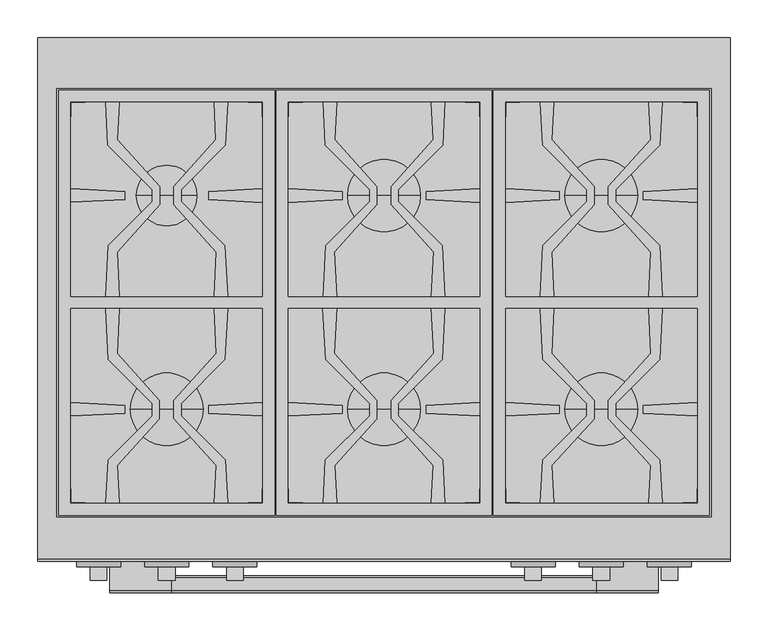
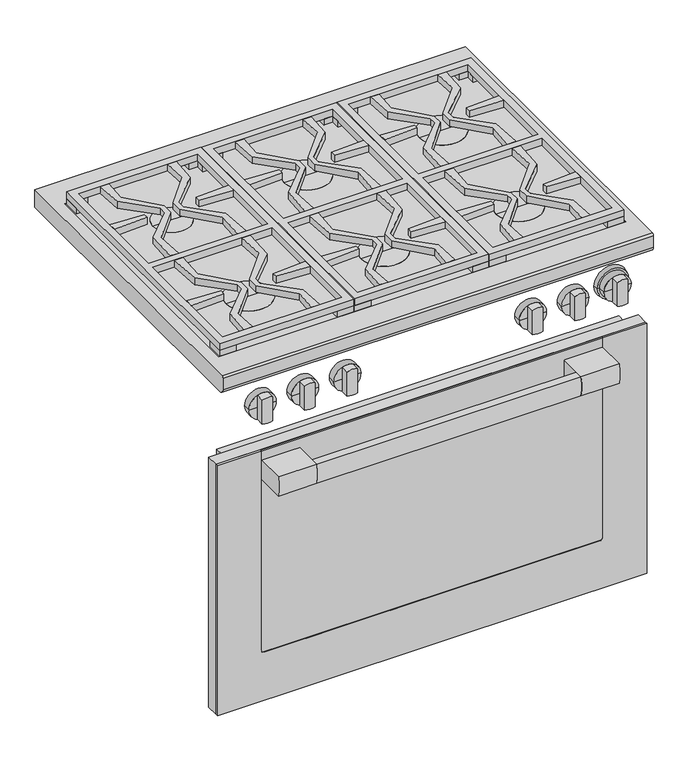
"""IFC4 building model written with IfcOpenShell, lengths in millimetres: proxy geometry, 11791590_USA_HR1934-3LP_EDST-CLS : 25193482_USA_11791590_HR1934-3LP_EDST-CLS."""

from ifc_helpers import new_model, si_unit, point, frame, frame_2d, origin, place, context, project, spatial, polyline, circle_curve, trimmed, segment, composite_curve, outline, extrude, source, transform, mapped, element, save
from ifc_brep_helpers import plane_surface, cylinder_surface, revolved_surface, advanced_brep


def specialty_equipment_725725e1(model_context):
    return source(origin(), model_context, "Body", "SolidModel", [
        extrude(outline(polyline([(-427.0, -617.0), (427.0, -617.0), (427.0, -638.0), (-427.0, -638.0), (-427.0, -617.0)])), frame((0.0, 0.0, 133.0), z_axis=(0.0, 0.0, 1.0), x_axis=(1.0, 0.0, 0.0)), (0.0, 0.0, 1.0), 550.0),
        advanced_brep(
        [(363.0, -664.7, 688.0), (456.0, -664.7, 688.0), (456.0, -664.7, 127.0), (-456.0, -664.7, 127.0), (-456.0, -664.7, 688.0), (-363.0, -664.7, 688.0), (-363.0, -664.7, 687.0), (-455.0, -664.7, 687.0), (-455.0, -664.7, 128.0), (455.0, -664.7, 128.0), (455.0, -664.7, 687.0), (363.0, -664.7, 687.0), (-363.0, -670.0, 688.0), (-456.0, -670.0, 688.0), (-456.0, -670.0, 127.0), (456.0, -670.0, 127.0), (456.0, -670.0, 688.0), (363.0, -670.0, 688.0), (363.0, -670.0, 241.0), (357.0, -670.0, 235.0), (-357.0, -670.0, 235.0), (-363.0, -670.0, 241.0), (-363.0, -668.7, 241.0), (-363.0, -668.7, 687.0), (357.0, -668.7, 235.0), (-357.0, -668.7, 235.0), (363.0, -668.7, 687.0), (363.0, -668.7, 241.0), (455.0, -668.7, 687.0), (455.0, -668.7, 128.0), (-455.0, -668.7, 128.0), (-455.0, -668.7, 687.0)],
        [
            (0, 1),
            (1, 2),
            (2, 3),
            (3, 4),
            (4, 5),
            (5, 6),
            (6, 7),
            (7, 8),
            (8, 9),
            (9, 10),
            (10, 11),
            (11, 0),
            (12, 13),
            (13, 14),
            (14, 15),
            (15, 16),
            (16, 17),
            (17, 18),
            (18, 19, circle_curve(frame((357.0, -670.0, 241.0), z_axis=(0.0, 1.0, 0.0), x_axis=(-1.0, 0.0, 0.0)), 6.0)),
            (19, 20),
            (20, 21, circle_curve(frame((-357.0, -670.0, 241.0), z_axis=(0.0, 1.0, 0.0), x_axis=(-1.0, 0.0, 0.0)), 6.0)),
            (21, 12),
            (21, 22),
            (22, 23),
            (23, 6),
            (5, 12),
            (19, 24),
            (24, 25),
            (25, 20),
            (17, 0),
            (11, 26),
            (26, 27),
            (27, 18),
            (16, 1),
            (15, 2),
            (14, 3),
            (13, 4),
            (25, 22, circle_curve(frame((-357.0, -668.7, 241.0), z_axis=(0.0, 1.0, 0.0), x_axis=(-1.0, 0.0, 0.0)), 6.0)),
            (27, 24, circle_curve(frame((357.0, -668.7, 241.0), z_axis=(0.0, 1.0, 0.0), x_axis=(-1.0, 0.0, 0.0)), 6.0)),
            (28, 29),
            (29, 30),
            (30, 31),
            (31, 23),
            (26, 28),
            (28, 10),
            (9, 29),
            (8, 30),
            (7, 31),
        ],
        [
            plane_surface(frame((-363.0, -664.7, 241.0), z_axis=(0.0, 1.0, 0.0), x_axis=(0.0, 0.0, -1.0))),
            plane_surface(frame((-363.0, -670.0, 241.0), z_axis=(0.0, -1.0, 0.0), x_axis=(0.0, 0.0, 1.0))),
            plane_surface(frame((-363.0, -664.7, 688.0), z_axis=(1.0, 0.0, 0.0), x_axis=(0.0, -1.0, 0.0))),
            plane_surface(frame((-357.0, -664.7, 235.0), z_axis=(0.0, 0.0, 1.0), x_axis=(0.0, -1.0, 0.0))),
            plane_surface(frame((363.0, -664.7, 241.0), z_axis=(-1.0, 0.0, 0.0), x_axis=(0.0, -1.0, 0.0))),
            plane_surface(frame((363.0, -664.7, 688.0), z_axis=(0.0, 0.0, 1.0), x_axis=(0.0, -1.0, 0.0))),
            plane_surface(frame((456.0, -664.7, 688.0), z_axis=(1.0, 0.0, 0.0), x_axis=(0.0, -1.0, 0.0))),
            plane_surface(frame((456.0, -664.7, 127.0), z_axis=(0.0, 0.0, -1.0), x_axis=(0.0, -1.0, 0.0))),
            plane_surface(frame((-456.0, -664.7, 127.0), z_axis=(-1.0, 0.0, 0.0), x_axis=(0.0, -1.0, 0.0))),
            plane_surface(frame((-456.0, -664.7, 688.0), z_axis=(0.0, 0.0, 1.0), x_axis=(0.0, -1.0, 0.0))),
            revolved_surface(polyline([(-363.0, -670.0, 241.0), (-363.0, -668.7, 241.0)]), (-357.0, -670.0, 241.0), (0.0, -1.0, 0.0)),
            revolved_surface(polyline([(351.0, -670.0, 241.0), (351.0, -668.7, 241.0)]), (357.0, -670.0, 241.0), (0.0, -1.0, 0.0)),
            plane_surface(frame((455.0, -668.7, 687.0), z_axis=(0.0, 1.0, 0.0), x_axis=(0.0, 0.0, 1.0))),
            plane_surface(frame((455.0, -664.7, 687.0), z_axis=(-1.0, 0.0, 0.0), x_axis=(0.0, -1.0, 0.0))),
            plane_surface(frame((455.0, -664.7, 128.0), z_axis=(0.0, 0.0, 1.0), x_axis=(0.0, -1.0, 0.0))),
            plane_surface(frame((-455.0, -664.7, 128.0), z_axis=(1.0, 0.0, 0.0), x_axis=(0.0, -1.0, 0.0))),
            plane_surface(frame((-455.0, -664.7, 687.0), z_axis=(0.0, 0.0, -1.0), x_axis=(0.0, -1.0, 0.0))),
        ],
        [
            (0, [[1, 2, 3, 4, 5, 6, 7, 8, 9, 10, 11, 12]]),
            (1, [[13, 14, 15, 16, 17, 18, 19, 20, 21, 22]]),
            (2, [[-22, 23, 24, 25, -6, 26]]),
            (3, [[-20, 27, 28, 29]]),
            (4, [[-18, 30, -12, 31, 32, 33]]),
            (5, [[-1, -30, -17, 34]]),
            (6, [[-2, -34, -16, 35]]),
            (7, [[-3, -35, -15, 36]]),
            (8, [[-4, -36, -14, 37]]),
            (9, [[-5, -37, -13, -26]]),
            (10, [[-21, -29, 38, -23]]),
            (11, [[-19, -33, 39, -27]]),
            (12, [[40, 41, 42, 43, -24, -38, -28, -39, -32, 44]]),
            (13, [[-40, 45, -10, 46]]),
            (14, [[-41, -46, -9, 47]]),
            (15, [[-42, -47, -8, 48]]),
            (16, [[-45, -44, -31, -11]]),
            (16, [[-48, -7, -25, -43]]),
        ],
    ),
        extrude(outline(polyline([(-455.0, -664.7), (455.0, -664.7), (455.0, -668.7), (-455.0, -668.7), (-455.0, -664.7)])), frame((0.0, 0.0, 128.0), z_axis=(0.0, 0.0, 1.0), x_axis=(1.0, 0.0, 0.0)), (0.0, 0.0, 1.0), 559.0),
        extrude(outline(polyline([(-456.0, -638.0), (456.0, -638.0), (456.0, -664.7), (-456.0, -664.7), (-456.0, -638.0)])), frame((0.0, 0.0, 127.0), z_axis=(0.0, 0.0, 1.0), x_axis=(1.0, 0.0, 0.0)), (0.0, 0.0, 1.0), 561.0),
        extrude(outline(composite_curve([segment(polyline([(-668.7, 667.0), (-668.7, 624.0), (-731.0, 624.0)]), True, "CONTINUOUS"), segment(trimmed(circle_curve(frame_2d((-655.4583333, 645.5)), 78.5416667), [point((-731.0, 624.0))], [point((-731.0, 667.0))], False, "CARTESIAN"), True, "CONTINUOUS"), segment(polyline([(-731.0, 667.0), (-668.7, 667.0)]), True, "CONTINUOUS")], self_intersect=False)), frame((-362.0, 0.0, 0.0), z_axis=(1.0, 0.0, 0.0), x_axis=(0.0, 1.0, 0.0)), (0.0, 0.0, 1.0), 81.0),
        extrude(outline(composite_curve([segment(polyline([(-731.0, 667.0), (-668.7, 667.0), (-668.7, 624.0), (-731.0, 624.0)]), True, "CONTINUOUS"), segment(trimmed(circle_curve(frame_2d((-655.4583333, 645.5)), 78.5416667), [point((-731.0, 624.0))], [point((-731.0, 667.0))], False, "CARTESIAN"), True, "CONTINUOUS")], self_intersect=False)), frame((281.0, 0.0, 0.0), z_axis=(1.0, 0.0, 0.0), x_axis=(0.0, 1.0, 0.0)), (0.0, 0.0, 1.0), 81.0),
        extrude(outline(composite_curve([segment(polyline([(-714.0, 624.0), (-731.0, 624.0)]), True, "CONTINUOUS"), segment(trimmed(circle_curve(frame_2d((-655.4583333, 645.5)), 78.5416667), [point((-731.0, 624.0))], [point((-731.0, 667.0))], False, "CARTESIAN"), True, "CONTINUOUS"), segment(polyline([(-731.0, 667.0), (-714.0, 667.0)]), True, "CONTINUOUS"), segment(trimmed(circle_curve(frame_2d((-789.5416667, 645.5)), 78.5416667), [point((-714.0, 667.0))], [point((-714.0, 624.0))], False, "CARTESIAN"), True, "CONTINUOUS")], self_intersect=False)), frame((-281.0, 0.0, 0.0), z_axis=(1.0, 0.0, 0.0), x_axis=(0.0, 1.0, 0.0)), (0.0, 0.0, 1.0), 562.0),
        advanced_brep(
        [(457.2, 0.0, 902.0), (457.2, -688.3499547, 902.0), (457.2, -692.0, 898.3499547), (457.2, -692.0, 872.0), (457.2, -682.0, 862.0), (457.2, 0.0, 862.0), (-457.2, 0.0, 902.0), (-457.2, 0.0, 862.0), (-457.2, -682.0, 862.0), (-457.2, -692.0, 872.0), (-457.2, -692.0, 898.3499547), (-457.2, -688.3499547, 902.0), (-432.2, -67.0, 902.0), (432.2, -67.0, 902.0), (432.2, -633.0, 902.0), (-432.2, -633.0, 902.0), (432.2, -67.0, 870.0), (-432.2, -67.0, 870.0), (-432.2, -633.0, 870.0), (432.2, -633.0, 870.0)],
        [
            (0, 1),
            (1, 2, circle_curve(frame((457.2, -688.0, 898.0), z_axis=(1.0, 0.0, 0.0), x_axis=(0.0, 0.0, 1.0)), 4.0152794)),
            (2, 3),
            (3, 4, circle_curve(frame((457.2, -682.0, 872.0), z_axis=(1.0, 0.0, 0.0), x_axis=(0.0, 0.0, 1.0)), 10.0)),
            (4, 5),
            (5, 0),
            (6, 7),
            (7, 8),
            (8, 9, circle_curve(frame((-457.2, -682.0, 872.0), z_axis=(-1.0, 0.0, 0.0), x_axis=(0.0, 0.0, 1.0)), 10.0)),
            (9, 10),
            (10, 11, circle_curve(frame((-457.2, -688.0, 898.0), z_axis=(-1.0, 0.0, 0.0), x_axis=(0.0, 0.0, 1.0)), 4.0152794)),
            (11, 6),
            (0, 6),
            (11, 1),
            (12, 13),
            (13, 14),
            (14, 15),
            (15, 12),
            (10, 2),
            (9, 3),
            (8, 4),
            (7, 5),
            (16, 17),
            (17, 18),
            (18, 19),
            (19, 16),
            (16, 13),
            (12, 17),
            (15, 18),
            (14, 19),
        ],
        [
            plane_surface(frame((457.2, -688.3499547, 902.0), z_axis=(1.0, 0.0, 0.0), x_axis=(0.0, -1.0, 0.0))),
            plane_surface(frame((-457.2, -688.3499547, 902.0), z_axis=(-1.0, 0.0, 0.0), x_axis=(0.0, 1.0, 0.0))),
            plane_surface(frame((457.2, 0.0, 902.0), z_axis=(0.0, 0.0, 1.0), x_axis=(-1.0, 0.0, 0.0))),
            cylinder_surface(frame((-457.2, -688.0, 898.0), z_axis=(1.0, 0.0, 0.0), x_axis=(0.0, 0.0, 1.0)), 4.0152794),
            plane_surface(frame((457.2, -692.0, 898.3499547), z_axis=(0.0, -1.0, 0.0), x_axis=(-1.0, 0.0, 0.0))),
            cylinder_surface(frame((-457.2, -682.0, 872.0), z_axis=(1.0, 0.0, 0.0), x_axis=(0.0, 0.0, 1.0)), 10.0),
            plane_surface(frame((457.2, -682.0, 862.0), z_axis=(0.0, 0.0, -1.0), x_axis=(-1.0, 0.0, 0.0))),
            plane_surface(frame((457.2, 0.0, 862.0), z_axis=(0.0, 1.0, 0.0), x_axis=(-1.0, 0.0, 0.0))),
            plane_surface(frame((-432.2, -67.0, 870.0), z_axis=(0.0, 0.0, 1.0), x_axis=(1.0, 0.0, 0.0))),
            plane_surface(frame((432.2, -67.0, 902.0), z_axis=(0.0, -1.0, 0.0), x_axis=(0.0, 0.0, -1.0))),
            plane_surface(frame((-432.2, -67.0, 902.0), z_axis=(1.0, 0.0, 0.0), x_axis=(0.0, 0.0, -1.0))),
            plane_surface(frame((-432.2, -633.0, 902.0), z_axis=(0.0, 1.0, 0.0), x_axis=(0.0, 0.0, -1.0))),
            plane_surface(frame((432.2, -633.0, 902.0), z_axis=(-1.0, 0.0, 0.0), x_axis=(0.0, 0.0, -1.0))),
        ],
        [
            (0, [[1, 2, 3, 4, 5, 6]]),
            (1, [[7, 8, 9, 10, 11, 12]]),
            (2, [[-1, 13, -12, 14], [15, 16, 17, 18]]),
            (3, [[-2, -14, -11, 19]]),
            (4, [[-3, -19, -10, 20]]),
            (5, [[-4, -20, -9, 21]]),
            (6, [[-5, -21, -8, 22]]),
            (7, [[-6, -22, -7, -13]]),
            (8, [[23, 24, 25, 26]]),
            (9, [[-23, 27, -15, 28]]),
            (10, [[-24, -28, -18, 29]]),
            (11, [[-25, -29, -17, 30]]),
            (12, [[-26, -30, -16, -27]]),
        ],
    ),
        advanced_brep(
        [(-48.0, -491.0, 887.0), (48.0, -491.0, 887.0), (48.0, -491.0, 901.0), (-48.0, -491.0, 901.0), (0.0, -491.0, 887.0), (0.0, -491.0, 901.0)],
        [
            (0, 1, circle_curve(frame((0.0, -491.0, 887.0), z_axis=(0.0, 0.0, 1.0), x_axis=(1.0, 0.0, 0.0)), 48.0)),
            (1, 2),
            (2, 3, circle_curve(frame((0.0, -491.0, 901.0), z_axis=(0.0, 0.0, -1.0), x_axis=(1.0, 0.0, 0.0)), 48.0)),
            (3, 0),
            (1, 0, circle_curve(frame((0.0, -491.0, 887.0), z_axis=(0.0, 0.0, 1.0), x_axis=(1.0, 0.0, 0.0)), 48.0)),
            (3, 2, circle_curve(frame((0.0, -491.0, 901.0), z_axis=(0.0, 0.0, -1.0), x_axis=(1.0, 0.0, 0.0)), 48.0)),
            (4, 1),
            (0, 4),
            (2, 5),
            (5, 3),
        ],
        [
            cylinder_surface(frame((0.0, -491.0, 2424.4), z_axis=(0.0, 0.0, -1.0), x_axis=(1.0, 0.0, 0.0)), 48.0),
            plane_surface(frame((0.0, -491.0, 887.0), z_axis=(0.0, 0.0, -1.0), x_axis=(1.0, 0.0, 0.0))),
            plane_surface(frame((0.0, -491.0, 901.0), z_axis=(0.0, 0.0, 1.0), x_axis=(1.0, 0.0, 0.0))),
        ],
        [
            (0, [[1, 2, 3, 4]]),
            (0, [[5, -4, 6, -2]]),
            (1, [[7, -1, 8]]),
            (1, [[-8, -5, -7]]),
            (2, [[-3, 9, 10]]),
            (2, [[-6, -10, -9]]),
        ],
    ),
        advanced_brep(
        [(-335.0, -491.0, 887.0), (-239.0, -491.0, 887.0), (-239.0, -491.0, 901.0), (-335.0, -491.0, 901.0), (-287.0, -491.0, 887.0), (-287.0, -491.0, 901.0)],
        [
            (0, 1, circle_curve(frame((-287.0, -491.0, 887.0), z_axis=(0.0, 0.0, 1.0), x_axis=(1.0, 0.0, 0.0)), 48.0)),
            (1, 2),
            (2, 3, circle_curve(frame((-287.0, -491.0, 901.0), z_axis=(0.0, 0.0, -1.0), x_axis=(1.0, 0.0, 0.0)), 48.0)),
            (3, 0),
            (1, 0, circle_curve(frame((-287.0, -491.0, 887.0), z_axis=(0.0, 0.0, 1.0), x_axis=(1.0, 0.0, 0.0)), 48.0)),
            (3, 2, circle_curve(frame((-287.0, -491.0, 901.0), z_axis=(0.0, 0.0, -1.0), x_axis=(1.0, 0.0, 0.0)), 48.0)),
            (4, 1),
            (0, 4),
            (2, 5),
            (5, 3),
        ],
        [
            cylinder_surface(frame((-287.0, -491.0, 2424.4), z_axis=(0.0, 0.0, -1.0), x_axis=(1.0, 0.0, 0.0)), 48.0),
            plane_surface(frame((-287.0, -491.0, 887.0), z_axis=(0.0, 0.0, -1.0), x_axis=(1.0, 0.0, 0.0))),
            plane_surface(frame((-287.0, -491.0, 901.0), z_axis=(0.0, 0.0, 1.0), x_axis=(1.0, 0.0, 0.0))),
        ],
        [
            (0, [[1, 2, 3, 4]]),
            (0, [[5, -4, 6, -2]]),
            (1, [[7, -1, 8]]),
            (1, [[-8, -5, -7]]),
            (2, [[-3, 9, 10]]),
            (2, [[-6, -10, -9]]),
        ],
    ),
        advanced_brep(
        [(-287.0, -208.5, 887.0), (-247.0, -208.5, 887.0), (-327.0, -208.5, 887.0), (-327.0, -208.5, 901.0), (-247.0, -208.5, 901.0), (-287.0, -208.5, 901.0)],
        [
            (0, 1),
            (1, 2, circle_curve(frame((-287.0, -208.5, 887.0), z_axis=(0.0, 0.0, -1.0), x_axis=(1.0, 0.0, 0.0)), 40.0)),
            (2, 0),
            (2, 1, circle_curve(frame((-287.0, -208.5, 887.0), z_axis=(0.0, 0.0, -1.0), x_axis=(1.0, 0.0, 0.0)), 40.0)),
            (3, 4, circle_curve(frame((-287.0, -208.5, 901.0), z_axis=(0.0, 0.0, 1.0), x_axis=(1.0, 0.0, 0.0)), 40.0)),
            (4, 5),
            (5, 3),
            (4, 3, circle_curve(frame((-287.0, -208.5, 901.0), z_axis=(0.0, 0.0, 1.0), x_axis=(1.0, 0.0, 0.0)), 40.0)),
            (1, 4),
            (3, 2),
        ],
        [
            plane_surface(frame((-287.0, -208.5, 887.0), z_axis=(0.0, 0.0, -1.0), x_axis=(1.0, 0.0, 0.0))),
            plane_surface(frame((-287.0, -208.5, 901.0), z_axis=(0.0, 0.0, 1.0), x_axis=(1.0, 0.0, 0.0))),
            cylinder_surface(frame((-287.0, -208.5, 2424.4), z_axis=(0.0, 0.0, -1.0), x_axis=(1.0, 0.0, 0.0)), 40.0),
        ],
        [
            (0, [[1, 2, 3]]),
            (0, [[-3, 4, -1]]),
            (1, [[5, 6, 7]]),
            (1, [[8, -7, -6]]),
            (2, [[-2, 9, -5, 10]]),
            (2, [[-4, -10, -8, -9]]),
        ],
    ),
        advanced_brep(
        [(-48.0, -208.5, 887.0), (48.0, -208.5, 887.0), (48.0, -208.5, 901.0), (-48.0, -208.5, 901.0), (0.0, -208.5, 887.0), (0.0, -208.5, 901.0)],
        [
            (0, 1, circle_curve(frame((0.0, -208.5, 887.0), z_axis=(0.0, 0.0, 1.0), x_axis=(1.0, 0.0, 0.0)), 48.0)),
            (1, 2),
            (2, 3, circle_curve(frame((0.0, -208.5, 901.0), z_axis=(0.0, 0.0, -1.0), x_axis=(1.0, 0.0, 0.0)), 48.0)),
            (3, 0),
            (1, 0, circle_curve(frame((0.0, -208.5, 887.0), z_axis=(0.0, 0.0, 1.0), x_axis=(1.0, 0.0, 0.0)), 48.0)),
            (3, 2, circle_curve(frame((0.0, -208.5, 901.0), z_axis=(0.0, 0.0, -1.0), x_axis=(1.0, 0.0, 0.0)), 48.0)),
            (4, 1),
            (0, 4),
            (2, 5),
            (5, 3),
        ],
        [
            cylinder_surface(frame((0.0, -208.5, 2338.4), z_axis=(0.0, 0.0, -1.0), x_axis=(1.0, 0.0, 0.0)), 48.0),
            plane_surface(frame((0.0, -208.5, 887.0), z_axis=(0.0, 0.0, -1.0), x_axis=(1.0, 0.0, 0.0))),
            plane_surface(frame((0.0, -208.5, 901.0), z_axis=(0.0, 0.0, 1.0), x_axis=(1.0, 0.0, 0.0))),
        ],
        [
            (0, [[1, 2, 3, 4]]),
            (0, [[5, -4, 6, -2]]),
            (1, [[7, -1, 8]]),
            (1, [[-8, -5, -7]]),
            (2, [[-3, 9, 10]]),
            (2, [[-6, -10, -9]]),
        ],
    ),
        extrude(outline(polyline([(142.5, -631.0), (107.5, -631.0), (107.5, -615.0), (126.5337834, -615.0), (126.5337834, -596.0), (142.5, -596.0), (142.5, -631.0)])), frame((0.0, 0.0, 887.0), z_axis=(0.0, 0.0, 1.0), x_axis=(1.0, 0.0, 0.0)), (0.0, 0.0, 1.0), 27.0),
        extrude(outline(polyline([(-142.5, -631.0), (-142.5, -596.0), (-126.4662166, -596.0), (-126.4662166, -615.0), (-107.5, -615.0), (-107.5, -631.0), (-142.5, -631.0)])), frame((0.0, 0.0, 887.0), z_axis=(0.0, 0.0, 1.0), x_axis=(1.0, 0.0, 0.0)), (0.0, 0.0, 1.0), 27.0),
        extrude(outline(polyline([(142.5, -69.0), (142.5, -104.0), (126.5337834, -104.0), (126.5337834, -85.0), (107.5, -85.0), (107.5, -69.0), (142.5, -69.0)])), frame((0.0, 0.0, 887.0), z_axis=(0.0, 0.0, 1.0), x_axis=(1.0, 0.0, 0.0)), (0.0, 0.0, 1.0), 27.0),
        extrude(outline(polyline([(-142.5, -69.0), (-107.5, -69.0), (-107.5, -85.0), (-126.4662166, -85.0), (-126.4662166, -104.0), (-142.5, -104.0), (-142.5, -69.0)])), frame((0.0, 0.0, 887.0), z_axis=(0.0, 0.0, 1.0), x_axis=(1.0, 0.0, 0.0)), (0.0, 0.0, 1.0), 27.0),
        extrude(outline(polyline([(429.5, -631.0), (394.5, -631.0), (394.5, -615.0), (413.5, -615.0), (413.5, -596.0), (429.5, -596.0), (429.5, -631.0)])), frame((0.0, 0.0, 887.0), z_axis=(0.0, 0.0, 1.0), x_axis=(1.0, 0.0, 0.0)), (0.0, 0.0, 1.0), 27.0),
        extrude(outline(polyline([(144.5, -631.0), (144.5, -596.0), (160.5125078, -596.0), (160.5125078, -615.0), (179.5, -615.0), (179.5, -631.0), (144.5, -631.0)])), frame((0.0, 0.0, 887.0), z_axis=(0.0, 0.0, 1.0), x_axis=(1.0, 0.0, 0.0)), (0.0, 0.0, 1.0), 27.0),
        extrude(outline(polyline([(429.5, -69.0), (429.5, -104.0), (413.4874922, -104.0), (413.4874922, -85.0), (394.5, -85.0), (394.5, -69.0), (429.5, -69.0)])), frame((0.0, 0.0, 887.0), z_axis=(0.0, 0.0, 1.0), x_axis=(1.0, 0.0, 0.0)), (0.0, 0.0, 1.0), 27.0),
        extrude(outline(polyline([(144.5, -69.0), (179.5, -69.0), (179.5, -85.0), (160.5125078, -85.0), (160.5125078, -104.0), (144.5, -104.0), (144.5, -69.0)])), frame((0.0, 0.0, 887.0), z_axis=(0.0, 0.0, 1.0), x_axis=(1.0, 0.0, 0.0)), (0.0, 0.0, 1.0), 27.0),
        advanced_brep(
        [(239.0, -491.0, 887.0), (335.0, -491.0, 887.0), (335.0, -491.0, 901.0), (239.0, -491.0, 901.0), (287.0, -491.0, 887.0), (287.0, -491.0, 901.0)],
        [
            (0, 1, circle_curve(frame((287.0, -491.0, 887.0), z_axis=(0.0, 0.0, 1.0), x_axis=(1.0, 0.0, 0.0)), 48.0)),
            (1, 2),
            (2, 3, circle_curve(frame((287.0, -491.0, 901.0), z_axis=(0.0, 0.0, -1.0), x_axis=(1.0, 0.0, 0.0)), 48.0)),
            (3, 0),
            (1, 0, circle_curve(frame((287.0, -491.0, 887.0), z_axis=(0.0, 0.0, 1.0), x_axis=(1.0, 0.0, 0.0)), 48.0)),
            (3, 2, circle_curve(frame((287.0, -491.0, 901.0), z_axis=(0.0, 0.0, -1.0), x_axis=(1.0, 0.0, 0.0)), 48.0)),
            (4, 1),
            (0, 4),
            (2, 5),
            (5, 3),
        ],
        [
            cylinder_surface(frame((287.0, -491.0, 2424.4), z_axis=(0.0, 0.0, -1.0), x_axis=(1.0, 0.0, 0.0)), 48.0),
            plane_surface(frame((287.0, -491.0, 887.0), z_axis=(0.0, 0.0, -1.0), x_axis=(1.0, 0.0, 0.0))),
            plane_surface(frame((287.0, -491.0, 901.0), z_axis=(0.0, 0.0, 1.0), x_axis=(1.0, 0.0, 0.0))),
        ],
        [
            (0, [[1, 2, 3, 4]]),
            (0, [[5, -4, 6, -2]]),
            (1, [[7, -1, 8]]),
            (1, [[-8, -5, -7]]),
            (2, [[-3, 9, 10]]),
            (2, [[-6, -10, -9]]),
        ],
    ),
        extrude(outline(polyline([(429.5, -69.0), (429.5, -631.0), (144.5, -631.0), (144.5, -69.0), (429.5, -69.0)]), holes=[polyline([(413.5, -85.0), (160.5, -85.0), (160.5, -342.0), (413.5, -342.0), (413.5, -85.0)]), polyline([(160.5, -358.0), (160.5, -615.0), (413.5, -615.0), (413.5, -358.0), (160.5, -358.0)])]), frame((0.0, 0.0, 914.0), z_axis=(0.0, 0.0, 1.0), x_axis=(1.0, 0.0, 0.0)), (0.0, 0.0, 1.0), 15.0),
        extrude(outline(polyline([(142.5, -69.0), (142.5, -631.0), (-142.5, -631.0), (-142.5, -69.0), (142.5, -69.0)]), holes=[polyline([(126.5337834, -85.0), (-126.4662166, -85.0), (-126.4662166, -342.0), (126.5337834, -342.0), (126.5337834, -85.0)]), polyline([(-126.4662166, -358.0), (-126.4662166, -615.0), (126.5337834, -615.0), (126.5337834, -358.0), (-126.4662166, -358.0)])]), frame((0.0, 0.0, 914.0), z_axis=(0.0, 0.0, 1.0), x_axis=(1.0, 0.0, 0.0)), (0.0, 0.0, 1.0), 15.0),
        extrude(outline(polyline([(-144.5, -69.0), (-144.5, -631.0), (-429.5, -631.0), (-429.5, -69.0), (-144.5, -69.0)]), holes=[polyline([(-160.5, -85.0), (-413.5, -85.0), (-413.5, -342.0), (-160.5, -342.0), (-160.5, -85.0)]), polyline([(-413.5, -358.0), (-413.5, -615.0), (-160.5, -615.0), (-160.5, -358.0), (-413.5, -358.0)])]), frame((0.0, 0.0, 914.0), z_axis=(0.0, 0.0, 1.0), x_axis=(1.0, 0.0, 0.0)), (0.0, 0.0, 1.0), 15.0),
        advanced_brep(
        [(239.0, -208.5, 887.0), (335.0, -208.5, 887.0), (335.0, -208.5, 901.0), (239.0, -208.5, 901.0), (287.0, -208.5, 887.0), (287.0, -208.5, 901.0)],
        [
            (0, 1, circle_curve(frame((287.0, -208.5, 887.0), z_axis=(0.0, 0.0, 1.0), x_axis=(1.0, 0.0, 0.0)), 48.0)),
            (1, 2),
            (2, 3, circle_curve(frame((287.0, -208.5, 901.0), z_axis=(0.0, 0.0, -1.0), x_axis=(1.0, 0.0, 0.0)), 48.0)),
            (3, 0),
            (1, 0, circle_curve(frame((287.0, -208.5, 887.0), z_axis=(0.0, 0.0, 1.0), x_axis=(1.0, 0.0, 0.0)), 48.0)),
            (3, 2, circle_curve(frame((287.0, -208.5, 901.0), z_axis=(0.0, 0.0, -1.0), x_axis=(1.0, 0.0, 0.0)), 48.0)),
            (4, 1),
            (0, 4),
            (2, 5),
            (5, 3),
        ],
        [
            cylinder_surface(frame((287.0, -208.5, 2424.4), z_axis=(0.0, 0.0, -1.0), x_axis=(1.0, 0.0, 0.0)), 48.0),
            plane_surface(frame((287.0, -208.5, 887.0), z_axis=(0.0, 0.0, -1.0), x_axis=(1.0, 0.0, 0.0))),
            plane_surface(frame((287.0, -208.5, 901.0), z_axis=(0.0, 0.0, 1.0), x_axis=(1.0, 0.0, 0.0))),
        ],
        [
            (0, [[1, 2, 3, 4]]),
            (0, [[5, -4, 6, -2]]),
            (1, [[7, -1, 8]]),
            (1, [[-8, -5, -7]]),
            (2, [[-3, 9, 10]]),
            (2, [[-6, -10, -9]]),
        ],
    ),
        extrude(outline(polyline([(-126.4662166, -217.4810574), (-126.4662166, -199.5189426), (-55.4662166, -203.2078739), (-55.4662166, -213.7921261), (-126.4662166, -217.4810574)])), frame((0.0, 0.0, 914.0), z_axis=(0.0, 0.0, 1.0), x_axis=(1.0, 0.0, 0.0)), (0.0, 0.0, 1.0), 15.0),
        extrude(outline(polyline([(126.5337834, -199.5262039), (126.5337834, -217.4737961), (55.5337834, -213.7790477), (55.5337834, -203.2209523), (126.5337834, -199.5262039)])), frame((0.0, 0.0, 914.0), z_axis=(0.0, 0.0, 1.0), x_axis=(1.0, 0.0, 0.0)), (0.0, 0.0, 1.0), 15.0),
        extrude(outline(polyline([(160.5, -217.4810574), (160.5, -199.5189426), (231.5, -203.2078739), (231.5, -213.7921261), (160.5, -217.4810574)])), frame((0.0, 0.0, 914.0), z_axis=(0.0, 0.0, 1.0), x_axis=(1.0, 0.0, 0.0)), (0.0, 0.0, 1.0), 15.0),
        extrude(outline(polyline([(413.5, -199.5262039), (413.5, -217.4737961), (342.5, -213.7790477), (342.5, -203.2209523), (413.5, -199.5262039)])), frame((0.0, 0.0, 914.0), z_axis=(0.0, 0.0, 1.0), x_axis=(1.0, 0.0, 0.0)), (0.0, 0.0, 1.0), 15.0),
        extrude(outline(polyline([(160.5, -499.9810574), (160.5, -482.0189426), (231.5, -485.7078739), (231.5, -496.2921261), (160.5, -499.9810574)])), frame((0.0, 0.0, 914.0), z_axis=(0.0, 0.0, 1.0), x_axis=(1.0, 0.0, 0.0)), (0.0, 0.0, 1.0), 15.0),
        extrude(outline(polyline([(413.5, -482.0262039), (413.5, -499.9737961), (342.5, -496.2790477), (342.5, -485.7209523), (413.5, -482.0262039)])), frame((0.0, 0.0, 914.0), z_axis=(0.0, 0.0, 1.0), x_axis=(1.0, 0.0, 0.0)), (0.0, 0.0, 1.0), 15.0),
        extrude(outline(polyline([(-126.4662166, -499.9810574), (-126.4662166, -482.0189426), (-55.4662166, -485.7078739), (-55.4662166, -496.2921261), (-126.4662166, -499.9810574)])), frame((0.0, 0.0, 914.0), z_axis=(0.0, 0.0, 1.0), x_axis=(1.0, 0.0, 0.0)), (0.0, 0.0, 1.0), 15.0),
        extrude(outline(polyline([(126.5337834, -482.0262039), (126.5337834, -499.9737961), (55.5337834, -496.2790477), (55.5337834, -485.7209523), (126.5337834, -482.0262039)])), frame((0.0, 0.0, 914.0), z_axis=(0.0, 0.0, 1.0), x_axis=(1.0, 0.0, 0.0)), (0.0, 0.0, 1.0), 15.0),
        extrude(outline(polyline([(-144.5, -631.0), (-179.5, -631.0), (-179.5, -615.0), (-160.5, -615.0), (-160.5, -596.0), (-144.5, -596.0), (-144.5, -631.0)])), frame((0.0, 0.0, 887.0), z_axis=(0.0, 0.0, 1.0), x_axis=(1.0, 0.0, 0.0)), (0.0, 0.0, 1.0), 27.0),
        extrude(outline(polyline([(-429.5, -631.0), (-429.5, -596.0), (-413.5, -596.0), (-413.5, -615.0), (-394.5, -615.0), (-394.5, -631.0), (-429.5, -631.0)])), frame((0.0, 0.0, 887.0), z_axis=(0.0, 0.0, 1.0), x_axis=(1.0, 0.0, 0.0)), (0.0, 0.0, 1.0), 27.0),
        extrude(outline(polyline([(-144.5, -69.0), (-144.5, -104.0), (-160.5, -104.0), (-160.5, -85.0), (-179.5, -85.0), (-179.5, -69.0), (-144.5, -69.0)])), frame((0.0, 0.0, 887.0), z_axis=(0.0, 0.0, 1.0), x_axis=(1.0, 0.0, 0.0)), (0.0, 0.0, 1.0), 27.0),
        extrude(outline(polyline([(-429.5, -69.0), (-394.5, -69.0), (-394.5, -85.0), (-413.5, -85.0), (-413.5, -104.0), (-429.5, -104.0), (-429.5, -69.0)])), frame((0.0, 0.0, 887.0), z_axis=(0.0, 0.0, 1.0), x_axis=(1.0, 0.0, 0.0)), (0.0, 0.0, 1.0), 27.0),
        extrude(outline(polyline([(-342.5, -496.2921261), (-413.5, -499.9578849), (-413.5, -482.0421151), (-342.5, -485.7078739), (-342.5, -496.2921261)])), frame((0.0, 0.0, 914.0), z_axis=(0.0, 0.0, 1.0), x_axis=(1.0, 0.0, 0.0)), (0.0, 0.0, 1.0), 15.0),
        extrude(outline(polyline([(-160.5, -482.0029948), (-160.5, -499.9970052), (-231.5, -496.2790477), (-231.5, -485.7209523), (-160.5, -482.0029948)])), frame((0.0, 0.0, 914.0), z_axis=(0.0, 0.0, 1.0), x_axis=(1.0, 0.0, 0.0)), (0.0, 0.0, 1.0), 15.0),
        extrude(outline(polyline([(-342.5, -213.7921261), (-413.5, -217.4578849), (-413.5, -199.5421151), (-342.5, -203.2078739), (-342.5, -213.7921261)])), frame((0.0, 0.0, 914.0), z_axis=(0.0, 0.0, 1.0), x_axis=(1.0, 0.0, 0.0)), (0.0, 0.0, 1.0), 15.0),
        extrude(outline(polyline([(-160.5, -199.5029948), (-160.5, -217.4970052), (-231.5, -213.7790477), (-231.5, -203.2209523), (-160.5, -199.5029948)])), frame((0.0, 0.0, 914.0), z_axis=(0.0, 0.0, 1.0), x_axis=(1.0, 0.0, 0.0)), (0.0, 0.0, 1.0), 15.0),
        extrude(outline(polyline([(-144.5, -67.0), (-144.5, -633.0), (-429.5, -633.0), (-429.5, -67.0), (-144.5, -67.0)])), frame((0.0, 0.0, 870.0), z_axis=(0.0, 0.0, 1.0), x_axis=(1.0, 0.0, 0.0)), (0.0, 0.0, 1.0), 17.0),
        extrude(outline(polyline([(142.5, -69.0), (142.5, -631.0), (-142.5, -631.0), (-142.5, -69.0), (142.5, -69.0)])), frame((0.0, 0.0, 870.0), z_axis=(0.0, 0.0, 1.0), x_axis=(1.0, 0.0, 0.0)), (0.0, 0.0, 1.0), 17.0),
        extrude(outline(polyline([(429.5, -67.0), (429.5, -633.0), (144.5, -633.0), (144.5, -67.0), (429.5, -67.0)])), frame((0.0, 0.0, 870.0), z_axis=(0.0, 0.0, 1.0), x_axis=(1.0, 0.0, 0.0)), (0.0, 0.0, 1.0), 17.0),
        extrude(outline(polyline([(-62.5385862, -85.0), (-65.1338026, -134.5196799), (-9.5, -196.6082182), (-9.5, -220.3917818), (-65.6289218, -283.0328838), (-62.5385862, -342.0), (-80.5385862, -342.0), (-77.0028157, -274.5334805), (-19.1108918, -216.6415566), (-19.1108918, -200.3584434), (-77.5558783, -141.9134569), (-80.5385862, -85.0), (-62.5385862, -85.0)])), frame((0.0, 0.0, 914.0), z_axis=(0.0, 0.0, 1.0), x_axis=(1.0, 0.0, 0.0)), (0.0, 0.0, 1.0), 15.0),
        extrude(outline(polyline([(65.0952165, -134.5196799), (62.5, -85.0), (80.5, -85.0), (77.5172921, -141.9134569), (19.1108918, -200.3198573), (19.1108918, -216.6801428), (76.9642295, -274.5334805), (80.5, -342.0), (62.5, -342.0), (65.5903356, -283.0328839), (9.5, -220.4348449), (9.5, -196.5651551), (65.0952165, -134.5196799)])), frame((0.0, 0.0, 914.0), z_axis=(0.0, 0.0, 1.0), x_axis=(1.0, 0.0, 0.0)), (0.0, 0.0, 1.0), 15.0),
        extrude(outline(polyline([(-367.5385862, -85.0), (-349.5385862, -85.0), (-352.1338026, -134.5196799), (-296.5, -196.6082182), (-296.5, -220.3917818), (-352.6289218, -283.0328838), (-349.5385862, -342.0), (-367.5385862, -342.0), (-364.0028157, -274.5334805), (-306.1108918, -216.6415566), (-306.1108918, -200.3584434), (-364.5558783, -141.9134569), (-367.5385862, -85.0)])), frame((0.0, 0.0, 914.0), z_axis=(0.0, 0.0, 1.0), x_axis=(1.0, 0.0, 0.0)), (0.0, 0.0, 1.0), 15.0),
        extrude(outline(polyline([(-224.5, -85.0), (-206.5, -85.0), (-209.4827079, -141.9134569), (-267.8891082, -200.3198573), (-267.8891082, -216.6801428), (-210.0357705, -274.5334805), (-206.5, -342.0), (-224.5, -342.0), (-221.4096644, -283.0328839), (-277.5, -220.4348449), (-277.5, -196.5651551), (-221.9047835, -134.5196799), (-224.5, -85.0)])), frame((0.0, 0.0, 914.0), z_axis=(0.0, 0.0, 1.0), x_axis=(1.0, 0.0, 0.0)), (0.0, 0.0, 1.0), 15.0),
        extrude(outline(polyline([(206.4614138, -85.0), (224.4614138, -85.0), (221.8661974, -134.5196799), (277.5, -196.6082182), (277.5, -220.3917818), (221.3710782, -283.0328838), (224.4614138, -342.0), (206.4614138, -342.0), (209.9971843, -274.5334805), (267.8891082, -216.6415566), (267.8891082, -200.3584434), (209.4441217, -141.9134569), (206.4614138, -85.0)])), frame((0.0, 0.0, 914.0), z_axis=(0.0, 0.0, 1.0), x_axis=(1.0, 0.0, 0.0)), (0.0, 0.0, 1.0), 15.0),
        extrude(outline(polyline([(349.5, -85.0), (367.5, -85.0), (364.5172921, -141.9134569), (306.1108918, -200.3198573), (306.1108918, -216.6801428), (363.9642295, -274.5334805), (367.5, -342.0), (349.5, -342.0), (352.5903356, -283.0328839), (296.5, -220.4348449), (296.5, -196.5651551), (352.0952165, -134.5196799), (349.5, -85.0)])), frame((0.0, 0.0, 914.0), z_axis=(0.0, 0.0, 1.0), x_axis=(1.0, 0.0, 0.0)), (0.0, 0.0, 1.0), 15.0),
        extrude(outline(polyline([(-367.5822696, -358.0273828), (-349.5825893, -358.0273828), (-352.6525581, -416.9894265), (-296.5409434, -479.568392), (-296.5409434, -503.4471434), (-352.1069467, -565.5024535), (-349.4948945, -615.0212482), (-367.4945748, -615.0212482), (-364.5293542, -558.0710081), (-306.1505447, -499.6921986), (-306.1505447, -483.3657133), (-364.0235617, -425.4926963), (-367.5822696, -358.0273828)])), frame((0.0, 0.0, 914.0), z_axis=(0.0, 0.0, 1.0), x_axis=(1.0, 0.0, 0.0)), (0.0, 0.0, 1.0), 15.0),
        extrude(outline(polyline([(-224.5411265, -358.0273828), (-206.5465434, -358.0273828), (-210.0565254, -425.4403498), (-267.9287769, -483.3126013), (-267.9287769, -499.6295194), (-209.4561608, -558.1021355), (-206.4537513, -615.0212482), (-224.458529, -615.0212482), (-221.8779352, -565.4581775), (-277.5409298, -503.3795395), (-277.5409298, -479.6049953), (-221.4333083, -416.9448139), (-224.5411265, -358.0273828)])), frame((0.0, 0.0, 914.0), z_axis=(0.0, 0.0, 1.0), x_axis=(1.0, 0.0, 0.0)), (0.0, 0.0, 1.0), 15.0),
        extrude(outline(polyline([(-80.5822696, -358.0273828), (-62.5825893, -358.0273828), (-65.6525581, -416.9894265), (-9.5409434, -479.568392), (-9.5409434, -503.4471434), (-65.1069467, -565.5024535), (-62.4948945, -615.0212482), (-80.4945748, -615.0212482), (-77.5293542, -558.0710081), (-19.1505447, -499.6921986), (-19.1505447, -483.3657133), (-77.0235617, -425.4926963), (-80.5822696, -358.0273828)])), frame((0.0, 0.0, 914.0), z_axis=(0.0, 0.0, 1.0), x_axis=(1.0, 0.0, 0.0)), (0.0, 0.0, 1.0), 15.0),
        extrude(outline(polyline([(65.5666917, -416.9448139), (62.4588735, -358.0273828), (80.4534566, -358.0273828), (76.9434746, -425.4403498), (19.0712231, -483.3126013), (19.0712231, -499.6295194), (77.5438392, -558.1021355), (80.5462487, -615.0212482), (62.541471, -615.0212482), (65.1220648, -565.4581775), (9.4590702, -503.3795395), (9.4590702, -479.6049953), (65.5666917, -416.9448139)])), frame((0.0, 0.0, 914.0), z_axis=(0.0, 0.0, 1.0), x_axis=(1.0, 0.0, 0.0)), (0.0, 0.0, 1.0), 15.0),
        extrude(outline(polyline([(206.4177304, -358.0273828), (224.4174107, -358.0273828), (221.3474419, -416.9894265), (277.4590566, -479.568392), (277.4590566, -503.4471434), (221.8930533, -565.5024535), (224.5051055, -615.0212482), (206.5054252, -615.0212482), (209.4706458, -558.0710081), (267.8494553, -499.6921986), (267.8494553, -483.3657133), (209.9764383, -425.4926963), (206.4177304, -358.0273828)])), frame((0.0, 0.0, 914.0), z_axis=(0.0, 0.0, 1.0), x_axis=(1.0, 0.0, 0.0)), (0.0, 0.0, 1.0), 15.0),
        extrude(outline(polyline([(352.5666917, -416.9448139), (349.4588735, -358.0273828), (367.4534566, -358.0273828), (363.9434746, -425.4403498), (306.0712231, -483.3126013), (306.0712231, -499.6295194), (364.5438392, -558.1021355), (367.5462487, -615.0212482), (349.541471, -615.0212482), (352.1220648, -565.4581775), (296.4590702, -503.3795395), (296.4590702, -479.6049953), (352.5666917, -416.9448139)])), frame((0.0, 0.0, 914.0), z_axis=(0.0, 0.0, 1.0), x_axis=(1.0, 0.0, 0.0)), (0.0, 0.0, 1.0), 15.0),
        extrude(outline(polyline([(432.2, -67.0), (432.2, -633.0), (-432.2, -633.0), (-432.2, -67.0), (432.2, -67.0)])), frame((0.0, 0.0, 870.0), z_axis=(0.0, 0.0, 1.0), x_axis=(1.0, 0.0, 0.0)), (0.0, 0.0, 1.0), 31.0),
        advanced_brep(
        [(377.0, -683.0, 813.0), (406.0, -683.0, 813.0), (348.0, -683.0, 813.0), (348.0, -699.0, 813.0), (406.0, -699.0, 813.0), (377.0, -699.0, 813.0)],
        [
            (0, 1),
            (1, 2, circle_curve(frame((377.0, -683.0, 813.0), z_axis=(0.0, 1.0, 0.0), x_axis=(1.0, 0.0, 0.0)), 29.0)),
            (2, 0),
            (2, 1, circle_curve(frame((377.0, -683.0, 813.0), z_axis=(0.0, 1.0, 0.0), x_axis=(1.0, 0.0, 0.0)), 29.0)),
            (3, 4, circle_curve(frame((377.0, -699.0, 813.0), z_axis=(0.0, -1.0, 0.0), x_axis=(1.0, 0.0, 0.0)), 29.0)),
            (4, 5),
            (5, 3),
            (4, 3, circle_curve(frame((377.0, -699.0, 813.0), z_axis=(0.0, -1.0, 0.0), x_axis=(1.0, 0.0, 0.0)), 29.0)),
            (1, 4),
            (3, 2),
        ],
        [
            plane_surface(frame((377.0, -683.0, 813.0), z_axis=(0.0, 1.0, 0.0), x_axis=(1.0, 0.0, 0.0))),
            plane_surface(frame((377.0, -699.0, 813.0), z_axis=(0.0, -1.0, 0.0), x_axis=(1.0, 0.0, 0.0))),
            cylinder_surface(frame((377.0, 751.3738435, 813.0), z_axis=(0.0, 1.0, 0.0), x_axis=(1.0, 0.0, 0.0)), 29.0),
        ],
        [
            (0, [[1, 2, 3]]),
            (0, [[-3, 4, -1]]),
            (1, [[5, 6, 7]]),
            (1, [[8, -7, -6]]),
            (2, [[-2, 9, -5, 10]]),
            (2, [[-4, -10, -8, -9]]),
        ],
    ),
        extrude(outline(composite_curve([segment(polyline([(786.1671843, 388.0), (839.8328157, 388.0)]), True, "CONTINUOUS"), segment(trimmed(circle_curve(frame_2d((813.0, 377.0)), 29.0), [point((839.8328157, 388.0))], [point((839.8328157, 366.0))], False, "CARTESIAN"), True, "CONTINUOUS"), segment(polyline([(839.8328157, 366.0), (786.1671843, 366.0)]), True, "CONTINUOUS"), segment(trimmed(circle_curve(frame_2d((813.0, 377.0)), 29.0), [point((786.1671843, 366.0))], [point((786.1671843, 388.0))], False, "CARTESIAN"), True, "CONTINUOUS")], self_intersect=False)), frame((0.0, -717.0, 0.0), z_axis=(0.0, 1.0, 0.0), x_axis=(0.0, 0.0, 1.0)), (0.0, 0.0, 1.0), 18.0),
        advanced_brep(
        [(287.0, -683.0, 813.0), (316.0, -683.0, 813.0), (258.0, -683.0, 813.0), (258.0, -699.0, 813.0), (316.0, -699.0, 813.0), (287.0, -699.0, 813.0)],
        [
            (0, 1),
            (1, 2, circle_curve(frame((287.0, -683.0, 813.0), z_axis=(0.0, 1.0, 0.0), x_axis=(1.0, 0.0, 0.0)), 29.0)),
            (2, 0),
            (2, 1, circle_curve(frame((287.0, -683.0, 813.0), z_axis=(0.0, 1.0, 0.0), x_axis=(1.0, 0.0, 0.0)), 29.0)),
            (3, 4, circle_curve(frame((287.0, -699.0, 813.0), z_axis=(0.0, -1.0, 0.0), x_axis=(1.0, 0.0, 0.0)), 29.0)),
            (4, 5),
            (5, 3),
            (4, 3, circle_curve(frame((287.0, -699.0, 813.0), z_axis=(0.0, -1.0, 0.0), x_axis=(1.0, 0.0, 0.0)), 29.0)),
            (1, 4),
            (3, 2),
        ],
        [
            plane_surface(frame((287.0, -683.0, 813.0), z_axis=(0.0, 1.0, 0.0), x_axis=(1.0, 0.0, 0.0))),
            plane_surface(frame((287.0, -699.0, 813.0), z_axis=(0.0, -1.0, 0.0), x_axis=(1.0, 0.0, 0.0))),
            cylinder_surface(frame((287.0, 751.3738435, 813.0), z_axis=(0.0, 1.0, 0.0), x_axis=(1.0, 0.0, 0.0)), 29.0),
        ],
        [
            (0, [[1, 2, 3]]),
            (0, [[-3, 4, -1]]),
            (1, [[5, 6, 7]]),
            (1, [[8, -7, -6]]),
            (2, [[-2, 9, -5, 10]]),
            (2, [[-4, -10, -8, -9]]),
        ],
    ),
        advanced_brep(
        [(197.0, -683.0, 813.0), (226.0, -683.0, 813.0), (168.0, -683.0, 813.0), (168.0, -699.0, 813.0), (226.0, -699.0, 813.0), (197.0, -699.0, 813.0)],
        [
            (0, 1),
            (1, 2, circle_curve(frame((197.0, -683.0, 813.0), z_axis=(0.0, 1.0, 0.0), x_axis=(1.0, 0.0, 0.0)), 29.0)),
            (2, 0),
            (2, 1, circle_curve(frame((197.0, -683.0, 813.0), z_axis=(0.0, 1.0, 0.0), x_axis=(1.0, 0.0, 0.0)), 29.0)),
            (3, 4, circle_curve(frame((197.0, -699.0, 813.0), z_axis=(0.0, -1.0, 0.0), x_axis=(1.0, 0.0, 0.0)), 29.0)),
            (4, 5),
            (5, 3),
            (4, 3, circle_curve(frame((197.0, -699.0, 813.0), z_axis=(0.0, -1.0, 0.0), x_axis=(1.0, 0.0, 0.0)), 29.0)),
            (1, 4),
            (3, 2),
        ],
        [
            plane_surface(frame((197.0, -683.0, 813.0), z_axis=(0.0, 1.0, 0.0), x_axis=(1.0, 0.0, 0.0))),
            plane_surface(frame((197.0, -699.0, 813.0), z_axis=(0.0, -1.0, 0.0), x_axis=(1.0, 0.0, 0.0))),
            cylinder_surface(frame((197.0, 751.3738435, 813.0), z_axis=(0.0, 1.0, 0.0), x_axis=(1.0, 0.0, 0.0)), 29.0),
        ],
        [
            (0, [[1, 2, 3]]),
            (0, [[-3, 4, -1]]),
            (1, [[5, 6, 7]]),
            (1, [[8, -7, -6]]),
            (2, [[-2, 9, -5, 10]]),
            (2, [[-4, -10, -8, -9]]),
        ],
    ),
        advanced_brep(
        [(-197.0, -683.0, 813.0), (-168.0, -683.0, 813.0), (-226.0, -683.0, 813.0), (-226.0, -699.0, 813.0), (-168.0, -699.0, 813.0), (-197.0, -699.0, 813.0)],
        [
            (0, 1),
            (1, 2, circle_curve(frame((-197.0, -683.0, 813.0), z_axis=(0.0, 1.0, 0.0), x_axis=(1.0, 0.0, 0.0)), 29.0)),
            (2, 0),
            (2, 1, circle_curve(frame((-197.0, -683.0, 813.0), z_axis=(0.0, 1.0, 0.0), x_axis=(1.0, 0.0, 0.0)), 29.0)),
            (3, 4, circle_curve(frame((-197.0, -699.0, 813.0), z_axis=(0.0, -1.0, 0.0), x_axis=(1.0, 0.0, 0.0)), 29.0)),
            (4, 5),
            (5, 3),
            (4, 3, circle_curve(frame((-197.0, -699.0, 813.0), z_axis=(0.0, -1.0, 0.0), x_axis=(1.0, 0.0, 0.0)), 29.0)),
            (1, 4),
            (3, 2),
        ],
        [
            plane_surface(frame((-197.0, -683.0, 813.0), z_axis=(0.0, 1.0, 0.0), x_axis=(1.0, 0.0, 0.0))),
            plane_surface(frame((-197.0, -699.0, 813.0), z_axis=(0.0, -1.0, 0.0), x_axis=(1.0, 0.0, 0.0))),
            cylinder_surface(frame((-197.0, 751.3738435, 813.0), z_axis=(0.0, 1.0, 0.0), x_axis=(1.0, 0.0, 0.0)), 29.0),
        ],
        [
            (0, [[1, 2, 3]]),
            (0, [[-3, 4, -1]]),
            (1, [[5, 6, 7]]),
            (1, [[8, -7, -6]]),
            (2, [[-2, 9, -5, 10]]),
            (2, [[-4, -10, -8, -9]]),
        ],
    ),
        advanced_brep(
        [(-287.0, -683.0, 813.0), (-258.0, -683.0, 813.0), (-316.0, -683.0, 813.0), (-316.0, -699.0, 813.0), (-258.0, -699.0, 813.0), (-287.0, -699.0, 813.0)],
        [
            (0, 1),
            (1, 2, circle_curve(frame((-287.0, -683.0, 813.0), z_axis=(0.0, 1.0, 0.0), x_axis=(1.0, 0.0, 0.0)), 29.0)),
            (2, 0),
            (2, 1, circle_curve(frame((-287.0, -683.0, 813.0), z_axis=(0.0, 1.0, 0.0), x_axis=(1.0, 0.0, 0.0)), 29.0)),
            (3, 4, circle_curve(frame((-287.0, -699.0, 813.0), z_axis=(0.0, -1.0, 0.0), x_axis=(1.0, 0.0, 0.0)), 29.0)),
            (4, 5),
            (5, 3),
            (4, 3, circle_curve(frame((-287.0, -699.0, 813.0), z_axis=(0.0, -1.0, 0.0), x_axis=(1.0, 0.0, 0.0)), 29.0)),
            (1, 4),
            (3, 2),
        ],
        [
            plane_surface(frame((-287.0, -683.0, 813.0), z_axis=(0.0, 1.0, 0.0), x_axis=(1.0, 0.0, 0.0))),
            plane_surface(frame((-287.0, -699.0, 813.0), z_axis=(0.0, -1.0, 0.0), x_axis=(1.0, 0.0, 0.0))),
            cylinder_surface(frame((-287.0, 751.3738435, 813.0), z_axis=(0.0, 1.0, 0.0), x_axis=(1.0, 0.0, 0.0)), 29.0),
        ],
        [
            (0, [[1, 2, 3]]),
            (0, [[-3, 4, -1]]),
            (1, [[5, 6, 7]]),
            (1, [[8, -7, -6]]),
            (2, [[-2, 9, -5, 10]]),
            (2, [[-4, -10, -8, -9]]),
        ],
    ),
        advanced_brep(
        [(-377.0, -683.0, 813.0), (-348.0, -683.0, 813.0), (-406.0, -683.0, 813.0), (-406.0, -699.0, 813.0), (-348.0, -699.0, 813.0), (-377.0, -699.0, 813.0)],
        [
            (0, 1),
            (1, 2, circle_curve(frame((-377.0, -683.0, 813.0), z_axis=(0.0, 1.0, 0.0), x_axis=(1.0, 0.0, 0.0)), 29.0)),
            (2, 0),
            (2, 1, circle_curve(frame((-377.0, -683.0, 813.0), z_axis=(0.0, 1.0, 0.0), x_axis=(1.0, 0.0, 0.0)), 29.0)),
            (3, 4, circle_curve(frame((-377.0, -699.0, 813.0), z_axis=(0.0, -1.0, 0.0), x_axis=(1.0, 0.0, 0.0)), 29.0)),
            (4, 5),
            (5, 3),
            (4, 3, circle_curve(frame((-377.0, -699.0, 813.0), z_axis=(0.0, -1.0, 0.0), x_axis=(1.0, 0.0, 0.0)), 29.0)),
            (1, 4),
            (3, 2),
        ],
        [
            plane_surface(frame((-377.0, -683.0, 813.0), z_axis=(0.0, 1.0, 0.0), x_axis=(1.0, 0.0, 0.0))),
            plane_surface(frame((-377.0, -699.0, 813.0), z_axis=(0.0, -1.0, 0.0), x_axis=(1.0, 0.0, 0.0))),
            cylinder_surface(frame((-377.0, 751.3738435, 813.0), z_axis=(0.0, 1.0, 0.0), x_axis=(1.0, 0.0, 0.0)), 29.0),
        ],
        [
            (0, [[1, 2, 3]]),
            (0, [[-3, 4, -1]]),
            (1, [[5, 6, 7]]),
            (1, [[8, -7, -6]]),
            (2, [[-2, 9, -5, 10]]),
            (2, [[-4, -10, -8, -9]]),
        ],
    ),
        extrude(outline(composite_curve([segment(trimmed(circle_curve(frame_2d((813.0, 287.0)), 29.0), [point((786.1671843, 276.0))], [point((786.1671843, 298.0))], False, "CARTESIAN"), True, "CONTINUOUS"), segment(polyline([(786.1671843, 298.0), (839.8328157, 298.0)]), True, "CONTINUOUS"), segment(trimmed(circle_curve(frame_2d((813.0, 287.0)), 29.0), [point((839.8328157, 298.0))], [point((839.8328157, 276.0))], False, "CARTESIAN"), True, "CONTINUOUS"), segment(polyline([(839.8328157, 276.0), (786.1671843, 276.0)]), True, "CONTINUOUS")], self_intersect=False)), frame((0.0, -717.0, 0.0), z_axis=(0.0, 1.0, 0.0), x_axis=(0.0, 0.0, 1.0)), (0.0, 0.0, 1.0), 18.0),
        extrude(outline(composite_curve([segment(polyline([(839.8328157, 186.0), (786.1671843, 186.0)]), True, "CONTINUOUS"), segment(trimmed(circle_curve(frame_2d((813.0, 197.0)), 29.0), [point((786.1671843, 186.0))], [point((786.1671843, 208.0))], False, "CARTESIAN"), True, "CONTINUOUS"), segment(polyline([(786.1671843, 208.0), (839.8328157, 208.0)]), True, "CONTINUOUS"), segment(trimmed(circle_curve(frame_2d((813.0, 197.0)), 29.0), [point((839.8328157, 208.0))], [point((839.8328157, 186.0))], False, "CARTESIAN"), True, "CONTINUOUS")], self_intersect=False)), frame((0.0, -717.0, 0.0), z_axis=(0.0, 1.0, 0.0), x_axis=(0.0, 0.0, 1.0)), (0.0, 0.0, 1.0), 18.0),
        extrude(outline(composite_curve([segment(polyline([(839.8328157, -208.0), (786.1671843, -208.0)]), True, "CONTINUOUS"), segment(trimmed(circle_curve(frame_2d((813.0, -197.0)), 29.0), [point((786.1671843, -208.0))], [point((786.1671843, -186.0))], False, "CARTESIAN"), True, "CONTINUOUS"), segment(polyline([(786.1671843, -186.0), (839.8328157, -186.0)]), True, "CONTINUOUS"), segment(trimmed(circle_curve(frame_2d((813.0, -197.0)), 29.0), [point((839.8328157, -186.0))], [point((839.8328157, -208.0))], False, "CARTESIAN"), True, "CONTINUOUS")], self_intersect=False)), frame((0.0, -717.0, 0.0), z_axis=(0.0, 1.0, 0.0), x_axis=(0.0, 0.0, 1.0)), (0.0, 0.0, 1.0), 18.0),
        extrude(outline(composite_curve([segment(polyline([(839.8328157, -298.0), (786.1671843, -298.0)]), True, "CONTINUOUS"), segment(trimmed(circle_curve(frame_2d((813.0, -287.0)), 29.0), [point((786.1671843, -298.0))], [point((786.1671843, -276.0))], False, "CARTESIAN"), True, "CONTINUOUS"), segment(polyline([(786.1671843, -276.0), (839.8328157, -276.0)]), True, "CONTINUOUS"), segment(trimmed(circle_curve(frame_2d((813.0, -287.0)), 29.0), [point((839.8328157, -276.0))], [point((839.8328157, -298.0))], False, "CARTESIAN"), True, "CONTINUOUS")], self_intersect=False)), frame((0.0, -717.0, 0.0), z_axis=(0.0, 1.0, 0.0), x_axis=(0.0, 0.0, 1.0)), (0.0, 0.0, 1.0), 18.0),
        extrude(outline(composite_curve([segment(polyline([(839.8328157, -388.0), (786.1671843, -388.0)]), True, "CONTINUOUS"), segment(trimmed(circle_curve(frame_2d((813.0, -377.0)), 29.0), [point((786.1671843, -388.0))], [point((786.1671843, -366.0))], False, "CARTESIAN"), True, "CONTINUOUS"), segment(polyline([(786.1671843, -366.0), (839.8328157, -366.0)]), True, "CONTINUOUS"), segment(trimmed(circle_curve(frame_2d((813.0, -377.0)), 29.0), [point((839.8328157, -366.0))], [point((839.8328157, -388.0))], False, "CARTESIAN"), True, "CONTINUOUS")], self_intersect=False)), frame((0.0, -717.0, 0.0), z_axis=(0.0, 1.0, 0.0), x_axis=(0.0, 0.0, 1.0)), (0.0, 0.0, 1.0), 18.0),
        advanced_brep(
        [(343.7632698, -683.0, 813.0), (410.2367302, -683.0, 813.0), (377.0, -683.0, 813.0), (342.0, -673.0, 813.0), (412.0, -673.0, 813.0), (377.0, -673.0, 813.0)],
        [
            (0, 1, circle_curve(frame((377.0, -683.0, 813.0), z_axis=(0.0, -1.0, 0.0), x_axis=(1.0, 0.0, 0.0)), 33.2367302)),
            (1, 2),
            (2, 0),
            (1, 0, circle_curve(frame((377.0, -683.0, 813.0), z_axis=(0.0, -1.0, 0.0), x_axis=(1.0, 0.0, 0.0)), 33.2367302)),
            (3, 4, circle_curve(frame((377.0, -673.0, 813.0), z_axis=(0.0, -1.0, 0.0), x_axis=(1.0, 0.0, 0.0)), 35.0)),
            (4, 1),
            (0, 3),
            (4, 3, circle_curve(frame((377.0, -673.0, 813.0), z_axis=(0.0, -1.0, 0.0), x_axis=(1.0, 0.0, 0.0)), 35.0)),
            (5, 4),
            (3, 5),
        ],
        [
            plane_surface(frame((377.0, -683.0, 813.0), z_axis=(0.0, -1.0, 0.0), x_axis=(1.0, 0.0, 0.0))),
            revolved_surface(polyline([(410.2367302, -683.0, 813.0), (412.0, -673.0, 813.0)]), (377.0, 751.3738435, 813.0), (0.0, 1.0, 0.0)),
            plane_surface(frame((377.0, -673.0, 813.0), z_axis=(0.0, 1.0, 0.0), x_axis=(1.0, 0.0, 0.0))),
        ],
        [
            (0, [[1, 2, 3]]),
            (0, [[4, -3, -2]]),
            (1, [[5, 6, -1, 7]]),
            (1, [[8, -7, -4, -6]]),
            (2, [[9, -5, 10]]),
            (2, [[-10, -8, -9]]),
        ],
    ),
    ])


if __name__ == "__main__":
    model = new_model("IFC4")
    model_context = context("Model", 3, world=origin())
    ifc_project = project(units=[si_unit("LENGTHUNIT", "METRE", prefix="MILLI")], contexts=[model_context])
    site = spatial("IfcSite", under=ifc_project)
    building = spatial("IfcBuilding", under=site)
    placement = place(None, origin())
    specialty_equipment_shape = specialty_equipment_725725e1(model_context)
    element("IfcBuildingElementProxy", 1, Name="11791590_USA_HR1934-3LP_EDST-CLS : 25193482_USA_11791590_HR1934-3LP_EDST-CLS", ObjectType="11791590_USA_HR1934-3LP_EDST-CLS : 25193482_USA_11791590_HR1934-3LP_EDST-CLS", at=placement, inside=building, context=model_context, shape_type="MappedRepresentation", body=[
        mapped(specialty_equipment_shape, transform((0.0, 0.0, 0.0), x_axis=(1.0, 0.0, 0.0), y_axis=(0.0, 1.0, 0.0), z_axis=(0.0, 0.0, 1.0))),
    ])
    save(model, "model.ifc")
